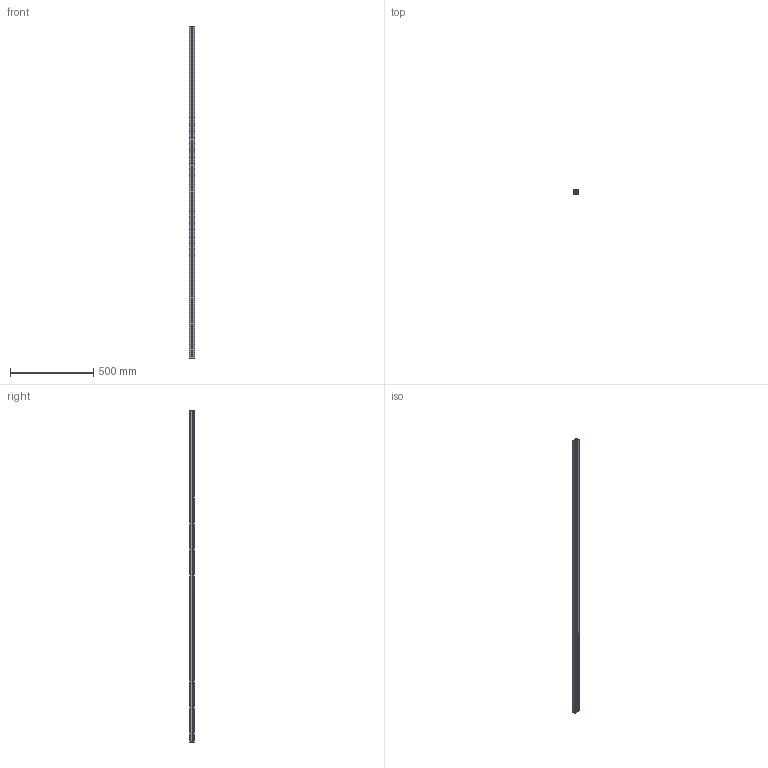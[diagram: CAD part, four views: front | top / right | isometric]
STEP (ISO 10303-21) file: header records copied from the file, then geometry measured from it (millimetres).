
FILE_DESCRIPTION (( 'STEP AP203' ), '1' );
FILE_NAME ('Linearführung_-_LFS-12-10 - L=1996.step', '2011-07-19T09:14:29', ( 'HI' ), ( '' ), 'SwSTEP 2.0', 'SolidWorks 2010', '' );
FILE_SCHEMA (( 'CONFIG_CONTROL_DESIGN' ));
Length unit declared in the file: millimetre
Products named in the file (1): Linearführung_-_LFS-12-10 - L=1996
Bounding box: 36 x 24.5 x 1996 mm (x, y, z)
Volume: 1285661.6 mm3; surface area: 493351.6 mm2
Topology: 1 solids, 1 shells, 902 faces, 2392 edges, 1566 vertices
Faces by surface type: cylinder 425, plane 317, cone 160
Entity records: 37571 total; most frequent: CARTESIAN_POINT 14869, ORIENTED_EDGE 4784, DIRECTION 4580, EDGE_CURVE 2392, AXIS2_PLACEMENT_3D 1765, VERTEX_POINT 1566, EDGE_LOOP 1224, LINE 1050
